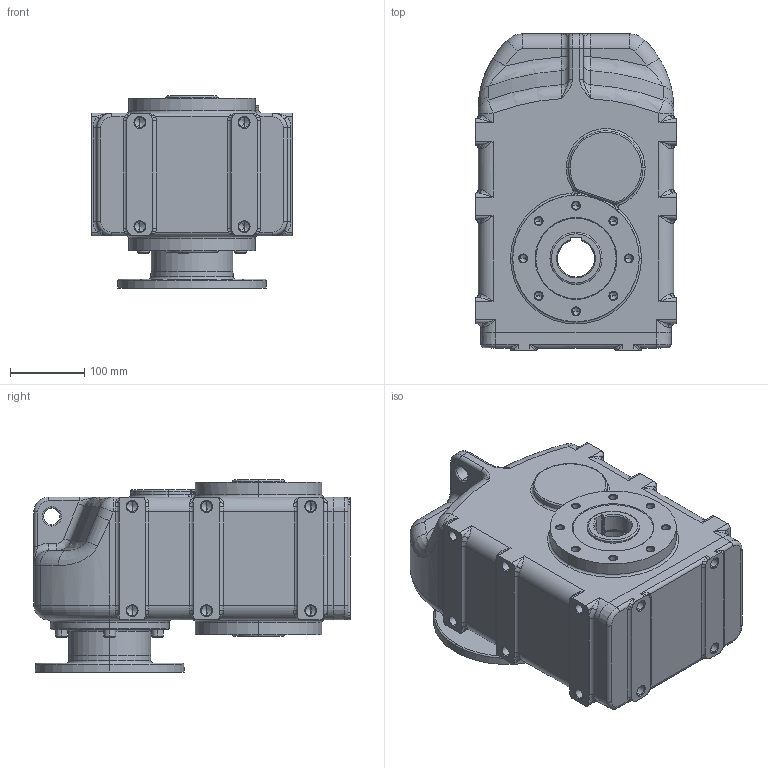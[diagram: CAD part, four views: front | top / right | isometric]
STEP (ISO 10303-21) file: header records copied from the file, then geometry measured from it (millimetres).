
FILE_DESCRIPTION (( 'STEP AP214' ), '1' );
FILE_NAME ('tnc42-f165-ap90.STEP', '2009-09-21T10:49:04', ( '' ), ( '' ), 'SwSTEP 2.0', 'SolidWorks 2003240', '' );
FILE_SCHEMA (( 'AUTOMOTIVE_DESIGN' ));
Length unit declared in the file: millimetre
Products named in the file (4): Skøíò TNC4_Skøíò TNC42 AP90; N021143_Šroub s vnitøním šestihranem DIN 912 - M8 x 25; Pøíruba MRT120 kulatá _130-165-188; tnc42-f165-ap90
Assembly tree (8 placements, depth 2):
  tnc42-f165-ap90
    N021143_Šroub s vnitøním šestihranem DIN 912 - M8 x 25  x6
    Pøíruba MRT120 kulatá _130-165-188
    Skøíò TNC4_Skøíò TNC42 AP90
Bounding box: 270 x 425 x 258 mm (x, y, z)
Volume: 18139557.8 mm3; surface area: 633311.2 mm2
Topology: 8 solids, 8 shells, 968 faces, 2225 edges, 1236 vertices
Faces by surface type: cylinder 275, cone 271, plane 175, torus 159, bspline 84, sphere 4
Entity records: 103282 total; most frequent: CARTESIAN_POINT 83507, DIRECTION 4261, ORIENTED_EDGE 3742, EDGE_CURVE 1871, AXIS2_PLACEMENT_3D 1776, VERTEX_POINT 1106, CIRCLE 1011, EDGE_LOOP 931
